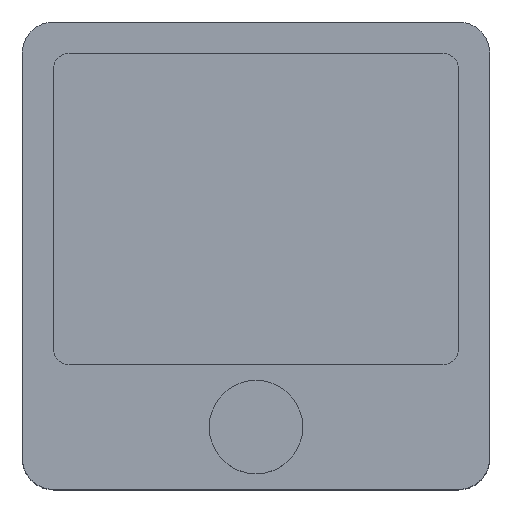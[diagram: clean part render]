
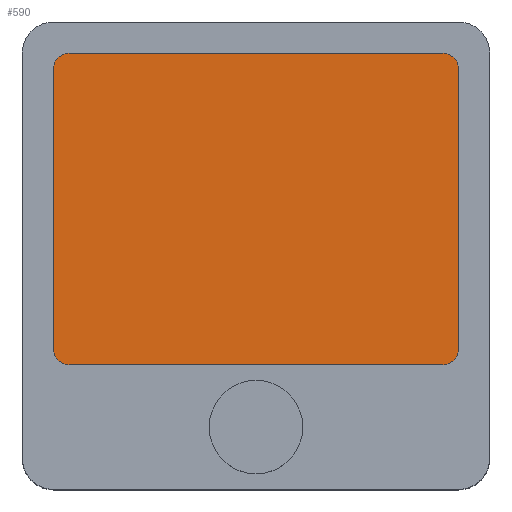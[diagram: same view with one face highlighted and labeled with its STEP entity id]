
A CAD part, top view. The second image highlights one B-rep face of the part: STEP entity #590.
In plain terms, the highlighted planar face has unit normal (0, 0, 1).
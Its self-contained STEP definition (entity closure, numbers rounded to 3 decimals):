
#36=PLANE('',#664);
#66=FACE_OUTER_BOUND('',#101,.T.);
#101=EDGE_LOOP('',(#480,#481,#482,#483,#484,#485,#486,#487));
#143=LINE('',#951,#197);
#147=LINE('',#963,#201);
#151=LINE('',#975,#205);
#154=LINE('',#984,#208);
#197=VECTOR('',#773,10.);
#201=VECTOR('',#785,10.);
#205=VECTOR('',#797,10.);
#208=VECTOR('',#808,10.);
#238=CIRCLE('',#650,1.);
#240=CIRCLE('',#654,1.);
#242=CIRCLE('',#658,1.);
#244=CIRCLE('',#662,1.);
#279=VERTEX_POINT('',#941);
#280=VERTEX_POINT('',#943);
#282=VERTEX_POINT('',#949);
#284=VERTEX_POINT('',#955);
#286=VERTEX_POINT('',#961);
#288=VERTEX_POINT('',#967);
#290=VERTEX_POINT('',#973);
#292=VERTEX_POINT('',#979);
#345=EDGE_CURVE('',#279,#280,#238,.T.);
#349=EDGE_CURVE('',#282,#279,#143,.T.);
#352=EDGE_CURVE('',#284,#282,#240,.T.);
#355=EDGE_CURVE('',#286,#284,#147,.T.);
#358=EDGE_CURVE('',#288,#286,#242,.T.);
#361=EDGE_CURVE('',#290,#288,#151,.T.);
#364=EDGE_CURVE('',#292,#290,#244,.T.);
#366=EDGE_CURVE('',#280,#292,#154,.T.);
#480=ORIENTED_EDGE('',*,*,#366,.F.);
#481=ORIENTED_EDGE('',*,*,#345,.F.);
#482=ORIENTED_EDGE('',*,*,#349,.F.);
#483=ORIENTED_EDGE('',*,*,#352,.F.);
#484=ORIENTED_EDGE('',*,*,#355,.F.);
#485=ORIENTED_EDGE('',*,*,#358,.F.);
#486=ORIENTED_EDGE('',*,*,#361,.F.);
#487=ORIENTED_EDGE('',*,*,#364,.F.);
#590=ADVANCED_FACE('',(#66),#36,.T.);
#650=AXIS2_PLACEMENT_3D('',#944,#766,#767);
#654=AXIS2_PLACEMENT_3D('',#957,#779,#780);
#658=AXIS2_PLACEMENT_3D('',#969,#791,#792);
#662=AXIS2_PLACEMENT_3D('',#981,#803,#804);
#664=AXIS2_PLACEMENT_3D('',#985,#809,#810);
#766=DIRECTION('center_axis',(0.,0.,-1.));
#767=DIRECTION('ref_axis',(0.,-1.,0.));
#773=DIRECTION('',(0.,1.,0.));
#779=DIRECTION('center_axis',(0.,0.,-1.));
#780=DIRECTION('ref_axis',(1.,0.,0.));
#785=DIRECTION('',(-1.,0.,0.));
#791=DIRECTION('center_axis',(0.,0.,-1.));
#792=DIRECTION('ref_axis',(0.,1.,0.));
#797=DIRECTION('',(0.,-1.,0.));
#803=DIRECTION('center_axis',(0.,0.,-1.));
#804=DIRECTION('ref_axis',(-1.,0.,0.));
#808=DIRECTION('',(1.,0.,0.));
#809=DIRECTION('center_axis',(0.,0.,1.));
#810=DIRECTION('ref_axis',(1.,0.,0.));
#941=CARTESIAN_POINT('',(-13.,12.,10.4));
#943=CARTESIAN_POINT('',(-12.,13.,10.4));
#944=CARTESIAN_POINT('Origin',(-12.,12.,10.4));
#949=CARTESIAN_POINT('',(-13.,-6.,10.4));
#951=CARTESIAN_POINT('',(-13.,-6.,10.4));
#955=CARTESIAN_POINT('',(-12.,-7.,10.4));
#957=CARTESIAN_POINT('Origin',(-12.,-6.,10.4));
#961=CARTESIAN_POINT('',(12.,-7.,10.4));
#963=CARTESIAN_POINT('',(12.,-7.,10.4));
#967=CARTESIAN_POINT('',(13.,-6.,10.4));
#969=CARTESIAN_POINT('Origin',(12.,-6.,10.4));
#973=CARTESIAN_POINT('',(13.,12.,10.4));
#975=CARTESIAN_POINT('',(13.,12.,10.4));
#979=CARTESIAN_POINT('',(12.,13.,10.4));
#981=CARTESIAN_POINT('Origin',(12.,12.,10.4));
#984=CARTESIAN_POINT('',(-12.,13.,10.4));
#985=CARTESIAN_POINT('Origin',(0.,3.,10.4));
